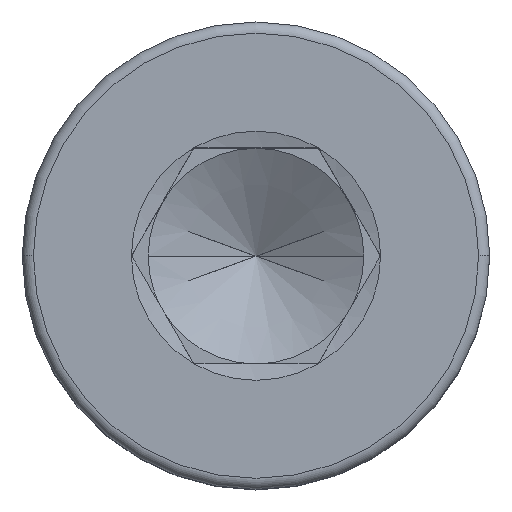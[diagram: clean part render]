
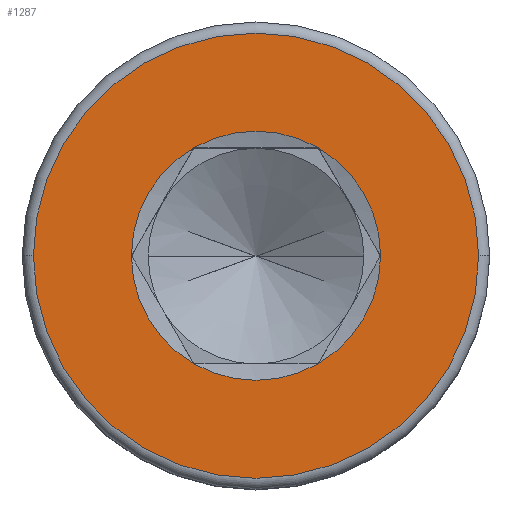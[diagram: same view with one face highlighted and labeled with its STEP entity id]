
A CAD part, top view. The second image highlights one B-rep face of the part: STEP entity #1287.
In plain terms, the highlighted planar face has unit normal (0, 0, 1).
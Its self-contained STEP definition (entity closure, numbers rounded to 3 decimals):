
#3 = CIRCLE ( 'NONE', #653, 3.464 ) ;
#16 = EDGE_CURVE ( 'NONE', #1375, #993, #3, .T. ) ;
#17 = ORIENTED_EDGE ( 'NONE', *, *, #782, .F. ) ;
#28 = EDGE_CURVE ( 'NONE', #269, #1640, #1585, .T. ) ;
#124 = PLANE ( 'NONE',  #1105 ) ;
#150 = EDGE_CURVE ( 'NONE', #993, #1780, #656, .T. ) ;
#187 = ORIENTED_EDGE ( 'NONE', *, *, #949, .F. ) ;
#195 = DIRECTION ( 'NONE',  ( 0., 0., 1. ) ) ;
#223 = EDGE_LOOP ( 'NONE', ( #1123, #1509, #17, #187, #857, #411 ) ) ;
#249 = DIRECTION ( 'NONE',  ( 1., 0., 0. ) ) ;
#250 = DIRECTION ( 'NONE',  ( 1., 0., 0. ) ) ;
#269 = VERTEX_POINT ( 'NONE', #1084 ) ;
#295 = EDGE_CURVE ( 'NONE', #1780, #1118, #1556, .T. ) ;
#328 = DIRECTION ( 'NONE',  ( 1., 0., 0. ) ) ;
#337 = CIRCLE ( 'NONE', #955, 3.464 ) ;
#411 = ORIENTED_EDGE ( 'NONE', *, *, #295, .F. ) ;
#481 = CARTESIAN_POINT ( 'NONE',  ( -1.732, -3., 8. ) ) ;
#497 = DIRECTION ( 'NONE',  ( 1., 0., 0. ) ) ;
#513 = AXIS2_PLACEMENT_3D ( 'NONE', #1170, #1018, #616 ) ;
#518 = CIRCLE ( 'NONE', #1452, 6.19 ) ;
#586 = DIRECTION ( 'NONE',  ( 0., 0., 1. ) ) ;
#595 = AXIS2_PLACEMENT_3D ( 'NONE', #648, #1499, #249 ) ;
#616 = DIRECTION ( 'NONE',  ( 1., 0., 0. ) ) ;
#648 = CARTESIAN_POINT ( 'NONE',  ( 0., 0., 8. ) ) ;
#653 = AXIS2_PLACEMENT_3D ( 'NONE', #1486, #1745, #497 ) ;
#656 = CIRCLE ( 'NONE', #513, 3.464 ) ;
#671 = CARTESIAN_POINT ( 'NONE',  ( 0., 0., 8. ) ) ;
#685 = DIRECTION ( 'NONE',  ( 0., 0., 1. ) ) ;
#732 = EDGE_LOOP ( 'NONE', ( #760, #1539 ) ) ;
#760 = ORIENTED_EDGE ( 'NONE', *, *, #1319, .T. ) ;
#772 = DIRECTION ( 'NONE',  ( 0., 0., 1. ) ) ;
#782 = EDGE_CURVE ( 'NONE', #1147, #1375, #1357, .T. ) ;
#799 = CARTESIAN_POINT ( 'NONE',  ( 0., 0., 8. ) ) ;
#812 = AXIS2_PLACEMENT_3D ( 'NONE', #1051, #772, #1583 ) ;
#828 = CARTESIAN_POINT ( 'NONE',  ( 1.732, -3., 8. ) ) ;
#857 = ORIENTED_EDGE ( 'NONE', *, *, #1121, .F. ) ;
#932 = DIRECTION ( 'NONE',  ( 0., 0., 1. ) ) ;
#949 = EDGE_CURVE ( 'NONE', #1278, #1147, #337, .T. ) ;
#950 = CARTESIAN_POINT ( 'NONE',  ( -3.464, 0., 8. ) ) ;
#955 = AXIS2_PLACEMENT_3D ( 'NONE', #1053, #195, #1576 ) ;
#990 = CARTESIAN_POINT ( 'NONE',  ( 0., 0., 8. ) ) ;
#993 = VERTEX_POINT ( 'NONE', #1114 ) ;
#1018 = DIRECTION ( 'NONE',  ( 0., 0., 1. ) ) ;
#1051 = CARTESIAN_POINT ( 'NONE',  ( 0., 0., 8. ) ) ;
#1053 = CARTESIAN_POINT ( 'NONE',  ( 0., 0., 8. ) ) ;
#1084 = CARTESIAN_POINT ( 'NONE',  ( -6.19, 0., 8. ) ) ;
#1105 = AXIS2_PLACEMENT_3D ( 'NONE', #671, #932, #1491 ) ;
#1114 = CARTESIAN_POINT ( 'NONE',  ( 3.464, 0., 8. ) ) ;
#1118 = VERTEX_POINT ( 'NONE', #1187 ) ;
#1121 = EDGE_CURVE ( 'NONE', #1118, #1278, #1710, .T. ) ;
#1123 = ORIENTED_EDGE ( 'NONE', *, *, #150, .F. ) ;
#1134 = DIRECTION ( 'NONE',  ( 1., 0., 0. ) ) ;
#1147 = VERTEX_POINT ( 'NONE', #481 ) ;
#1155 = AXIS2_PLACEMENT_3D ( 'NONE', #990, #586, #1134 ) ;
#1170 = CARTESIAN_POINT ( 'NONE',  ( 0., 0., 8. ) ) ;
#1187 = CARTESIAN_POINT ( 'NONE',  ( -1.732, 3., 8. ) ) ;
#1278 = VERTEX_POINT ( 'NONE', #950 ) ;
#1287 = ADVANCED_FACE ( 'NONE', ( #1376, #1367 ), #124, .T. ) ;
#1319 = EDGE_CURVE ( 'NONE', #1640, #269, #518, .T. ) ;
#1357 = CIRCLE ( 'NONE', #1155, 3.464 ) ;
#1367 = FACE_BOUND ( 'NONE', #223, .T. ) ;
#1375 = VERTEX_POINT ( 'NONE', #828 ) ;
#1376 = FACE_OUTER_BOUND ( 'NONE', #732, .T. ) ;
#1384 = AXIS2_PLACEMENT_3D ( 'NONE', #1579, #1608, #328 ) ;
#1452 = AXIS2_PLACEMENT_3D ( 'NONE', #799, #685, #250 ) ;
#1486 = CARTESIAN_POINT ( 'NONE',  ( 0., 0., 8. ) ) ;
#1491 = DIRECTION ( 'NONE',  ( 1., 0., 0. ) ) ;
#1499 = DIRECTION ( 'NONE',  ( 0., 0., 1. ) ) ;
#1509 = ORIENTED_EDGE ( 'NONE', *, *, #16, .F. ) ;
#1539 = ORIENTED_EDGE ( 'NONE', *, *, #28, .T. ) ;
#1556 = CIRCLE ( 'NONE', #595, 3.464 ) ;
#1570 = CARTESIAN_POINT ( 'NONE',  ( 6.19, 0., 8. ) ) ;
#1576 = DIRECTION ( 'NONE',  ( 1., 0., 0. ) ) ;
#1579 = CARTESIAN_POINT ( 'NONE',  ( 0., 0., 8. ) ) ;
#1583 = DIRECTION ( 'NONE',  ( 1., 0., 0. ) ) ;
#1585 = CIRCLE ( 'NONE', #1384, 6.19 ) ;
#1608 = DIRECTION ( 'NONE',  ( 0., 0., 1. ) ) ;
#1640 = VERTEX_POINT ( 'NONE', #1570 ) ;
#1710 = CIRCLE ( 'NONE', #812, 3.464 ) ;
#1745 = DIRECTION ( 'NONE',  ( 0., 0., 1. ) ) ;
#1761 = CARTESIAN_POINT ( 'NONE',  ( 1.732, 3., 8. ) ) ;
#1780 = VERTEX_POINT ( 'NONE', #1761 ) ;
